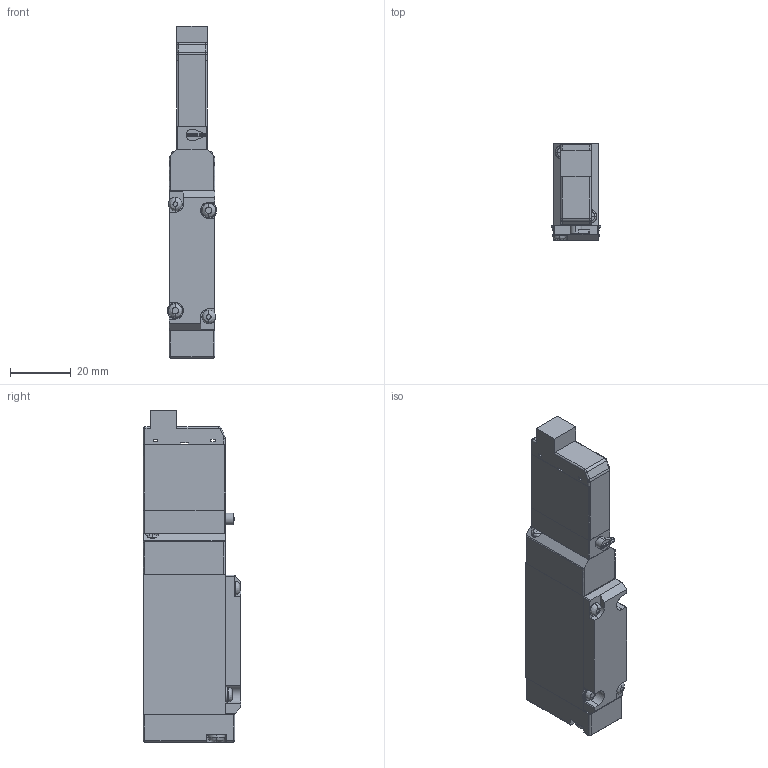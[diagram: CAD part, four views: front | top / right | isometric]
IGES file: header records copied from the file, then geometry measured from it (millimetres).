
Start section: ------------------------------------------------------------------------
Global section: file name: D:\ICADMX\tmp\trans3d_spg\CVICAD02.7120.F15T0-R-A1-PN_16743.igs; native system: spGate; preprocessor: ver12.6.6; author: Unknown; organization: Unknown; date: 210712.184834; units: millimetre
Bounding box: 16.2 x 32 x 109 mm (x, y, z)
Volume: 40135.1 mm3; surface area: 15366.8 mm2
Topology: 6 solids, 6 shells, 277 faces, 694 edges, 433 vertices
Faces by surface type: bspline 277
